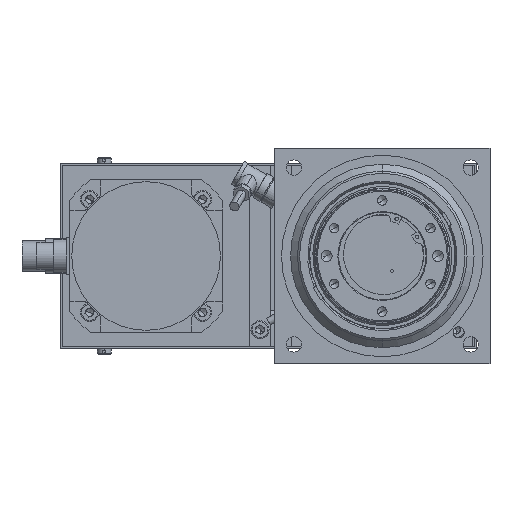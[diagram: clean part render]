
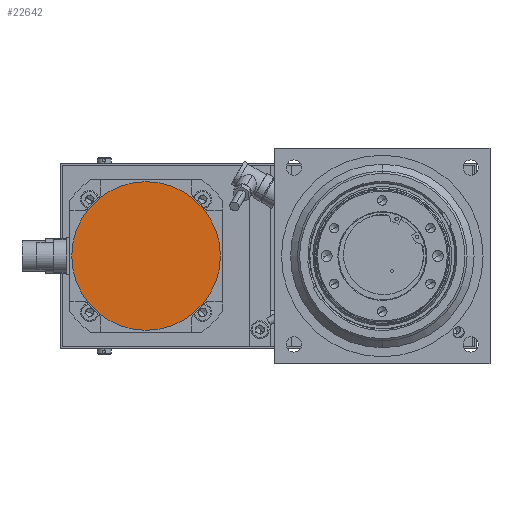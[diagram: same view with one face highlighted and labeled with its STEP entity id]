
A CAD part, front view. The second image highlights one B-rep face of the part: STEP entity #22642.
In plain terms, the highlighted planar face has unit normal (0, -1, 0).
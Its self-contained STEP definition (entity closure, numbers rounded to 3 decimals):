
#1874 = CIRCLE ( 'NONE', #28833, 53.5 ) ;
#3183 = VERTEX_POINT ( 'NONE', #36627 ) ;
#6550 = DIRECTION ( 'NONE',  ( 0., -1., 0. ) ) ;
#14005 = AXIS2_PLACEMENT_3D ( 'NONE', #41076, #45304, #21316 ) ;
#14864 = EDGE_CURVE ( 'NONE', #3183, #39190, #1874, .T. ) ;
#17251 = PLANE ( 'NONE',  #14005 ) ;
#17677 = CIRCLE ( 'NONE', #46488, 53.5 ) ;
#21316 = DIRECTION ( 'NONE',  ( 1., 0., 0. ) ) ;
#22345 = DIRECTION ( 'NONE',  ( 0., -1., 0. ) ) ;
#22642 = ADVANCED_FACE ( 'NONE', ( #22984 ), #17251, .F. ) ;
#22984 = FACE_OUTER_BOUND ( 'NONE', #26044, .T. ) ;
#23860 = ORIENTED_EDGE ( 'NONE', *, *, #28177, .T. ) ;
#24140 = ORIENTED_EDGE ( 'NONE', *, *, #14864, .T. ) ;
#26044 = EDGE_LOOP ( 'NONE', ( #24140, #23860 ) ) ;
#28177 = EDGE_CURVE ( 'NONE', #39190, #3183, #17677, .T. ) ;
#28833 = AXIS2_PLACEMENT_3D ( 'NONE', #30528, #6550, #34564 ) ;
#30528 = CARTESIAN_POINT ( 'NONE',  ( -98.751, 69.121, 97.194 ) ) ;
#34564 = DIRECTION ( 'NONE',  ( -1., 0., 0. ) ) ;
#36627 = CARTESIAN_POINT ( 'NONE',  ( -152.251, 69.121, 97.194 ) ) ;
#39190 = VERTEX_POINT ( 'NONE', #48736 ) ;
#41076 = CARTESIAN_POINT ( 'NONE',  ( -43.751, 69.121, 152.194 ) ) ;
#45304 = DIRECTION ( 'NONE',  ( 0., 1., 0. ) ) ;
#46282 = CARTESIAN_POINT ( 'NONE',  ( -98.751, 69.121, 97.194 ) ) ;
#46488 = AXIS2_PLACEMENT_3D ( 'NONE', #46282, #22345, #50366 ) ;
#48736 = CARTESIAN_POINT ( 'NONE',  ( -45.251, 69.121, 97.194 ) ) ;
#50366 = DIRECTION ( 'NONE',  ( -1., 0., 0. ) ) ;
